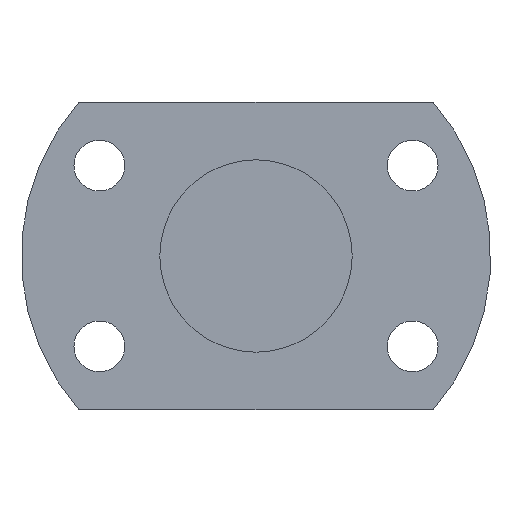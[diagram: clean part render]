
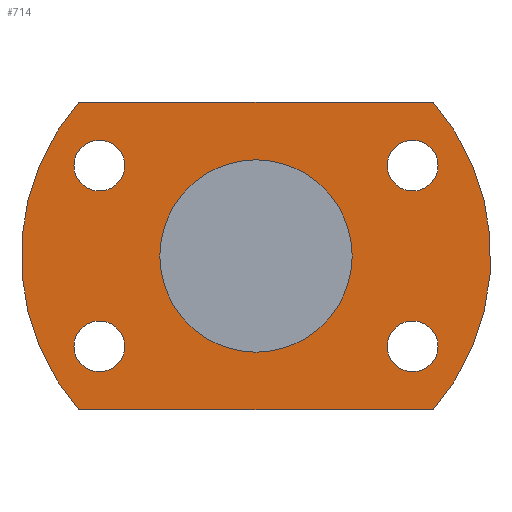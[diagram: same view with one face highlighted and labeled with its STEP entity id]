
A CAD part, left-side view. The second image highlights one B-rep face of the part: STEP entity #714.
In plain terms, the highlighted planar face has unit normal (-1, 0, 0).
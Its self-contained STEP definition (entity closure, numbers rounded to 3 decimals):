
#230=CARTESIAN_POINT('',(125.0,20.352,-8.45));
#231=VERTEX_POINT('',#230);
#232=CARTESIAN_POINT('',(125.0,20.352,-11.75));
#233=DIRECTION('',(1.0,0.0,0.0));
#234=DIRECTION('',(0.0,0.0,1.0));
#235=AXIS2_PLACEMENT_3D('',#232,#233,#234);
#236=CIRCLE('',#235,3.3);
#237=EDGE_CURVE('',#231,#231,#236,.T.);
#279=CARTESIAN_POINT('',(125.0,-20.352,15.05));
#280=VERTEX_POINT('',#279);
#281=CARTESIAN_POINT('',(125.0,-20.352,11.75));
#282=DIRECTION('',(1.0,0.0,0.0));
#283=DIRECTION('',(0.0,0.0,1.0));
#284=AXIS2_PLACEMENT_3D('',#281,#282,#283);
#285=CIRCLE('',#284,3.3);
#286=EDGE_CURVE('',#280,#280,#285,.T.);
#328=CARTESIAN_POINT('',(125.0,-20.352,-8.45));
#329=VERTEX_POINT('',#328);
#330=CARTESIAN_POINT('',(125.0,-20.352,-11.75));
#331=DIRECTION('',(1.0,0.0,0.0));
#332=DIRECTION('',(0.0,0.0,1.0));
#333=AXIS2_PLACEMENT_3D('',#330,#331,#332);
#334=CIRCLE('',#333,3.3);
#335=EDGE_CURVE('',#329,#329,#334,.T.);
#377=CARTESIAN_POINT('',(125.0,20.352,15.05));
#378=VERTEX_POINT('',#377);
#379=CARTESIAN_POINT('',(125.0,20.352,11.75));
#380=DIRECTION('',(1.0,0.0,0.0));
#381=DIRECTION('',(0.0,0.0,1.0));
#382=AXIS2_PLACEMENT_3D('',#379,#380,#381);
#383=CIRCLE('',#382,3.3);
#384=EDGE_CURVE('',#378,#378,#383,.T.);
#548=CARTESIAN_POINT('',(125.0,-23.027,-20.0));
#549=VERTEX_POINT('',#548);
#556=CARTESIAN_POINT('',(125.0,23.027,-20.0));
#557=VERTEX_POINT('',#556);
#558=CARTESIAN_POINT('',(125.0,23.027,-20.0));
#559=DIRECTION('',(0.0,-1.0,0.0));
#560=VECTOR('',#559,46.054);
#561=LINE('',#558,#560);
#562=EDGE_CURVE('',#557,#549,#561,.T.);
#579=CARTESIAN_POINT('',(125.0,-23.027,20.0));
#580=VERTEX_POINT('',#579);
#587=CARTESIAN_POINT('',(125.0,0.0,0.0));
#588=DIRECTION('',(-1.0,0.0,0.0));
#589=DIRECTION('',(0.0,0.0,1.0));
#590=AXIS2_PLACEMENT_3D('',#587,#588,#589);
#591=CIRCLE('',#590,30.5);
#592=EDGE_CURVE('',#549,#580,#591,.T.);
#604=CARTESIAN_POINT('',(125.0,23.027,20.0));
#605=VERTEX_POINT('',#604);
#612=CARTESIAN_POINT('',(125.0,-23.027,20.0));
#613=DIRECTION('',(0.0,1.0,0.0));
#614=VECTOR('',#613,46.054);
#615=LINE('',#612,#614);
#616=EDGE_CURVE('',#580,#605,#615,.T.);
#629=CARTESIAN_POINT('',(125.0,0.0,0.0));
#630=DIRECTION('',(-1.0,0.0,0.0));
#631=DIRECTION('',(0.0,0.0,1.0));
#632=AXIS2_PLACEMENT_3D('',#629,#630,#631);
#633=CIRCLE('',#632,30.5);
#634=EDGE_CURVE('',#605,#557,#633,.T.);
#680=CARTESIAN_POINT('',(125.0,0.0,15.25));
#681=DIRECTION('',(-1.0,0.0,0.0));
#682=DIRECTION('',(0.0,0.0,1.0));
#683=AXIS2_PLACEMENT_3D('',#680,#681,#682);
#684=PLANE('',#683);
#685=ORIENTED_EDGE('',*,*,#634,.T.);
#686=ORIENTED_EDGE('',*,*,#562,.T.);
#687=ORIENTED_EDGE('',*,*,#592,.T.);
#688=ORIENTED_EDGE('',*,*,#616,.T.);
#689=EDGE_LOOP('',(#685,#686,#687,#688));
#690=FACE_OUTER_BOUND('',#689,.T.);
#691=ORIENTED_EDGE('',*,*,#237,.T.);
#692=EDGE_LOOP('',(#691));
#693=FACE_BOUND('',#692,.T.);
#694=ORIENTED_EDGE('',*,*,#286,.T.);
#695=EDGE_LOOP('',(#694));
#696=FACE_BOUND('',#695,.T.);
#697=ORIENTED_EDGE('',*,*,#335,.T.);
#698=EDGE_LOOP('',(#697));
#699=FACE_BOUND('',#698,.T.);
#700=ORIENTED_EDGE('',*,*,#384,.T.);
#701=EDGE_LOOP('',(#700));
#702=FACE_BOUND('',#701,.T.);
#703=CARTESIAN_POINT('',(125.0,0.0,12.5));
#704=VERTEX_POINT('',#703);
#705=CARTESIAN_POINT('',(125.0,0.0,0.0));
#706=DIRECTION('',(-1.0,0.0,0.0));
#707=DIRECTION('',(0.0,0.0,1.0));
#708=AXIS2_PLACEMENT_3D('',#705,#706,#707);
#709=CIRCLE('',#708,12.5);
#710=EDGE_CURVE('',#704,#704,#709,.T.);
#711=ORIENTED_EDGE('',*,*,#710,.F.);
#712=EDGE_LOOP('',(#711));
#713=FACE_BOUND('',#712,.T.);
#714=ADVANCED_FACE('',(#690,#693,#696,#699,#702,#713),#684,.T.);
